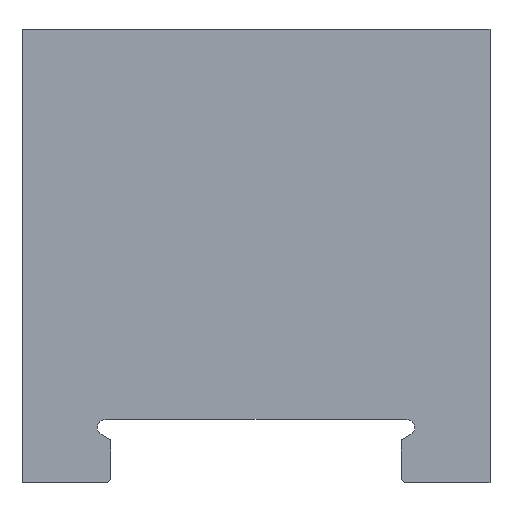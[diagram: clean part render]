
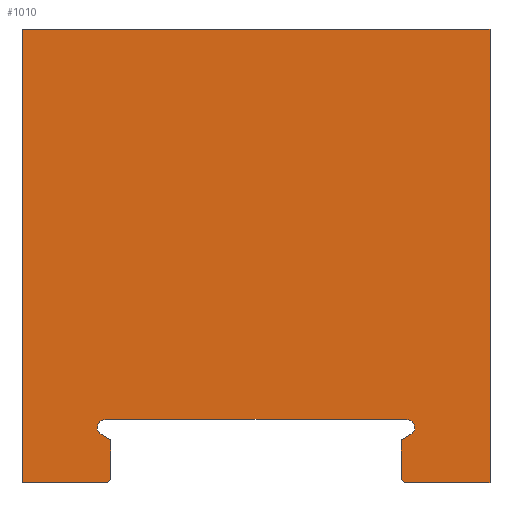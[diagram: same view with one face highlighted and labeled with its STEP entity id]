
A CAD part, front view. The second image highlights one B-rep face of the part: STEP entity #1010.
In plain terms, the highlighted planar face has unit normal (0, -1, 0).
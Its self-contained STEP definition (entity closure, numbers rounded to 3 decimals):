
#13 = DIRECTION ( 'NONE',  ( 0., 0., -1. ) ) ;
#24 = DIRECTION ( 'NONE',  ( 1., 0., 0. ) ) ;
#30 = CARTESIAN_POINT ( 'NONE',  ( -21.295, -38.5, 7.8 ) ) ;
#39 = CARTESIAN_POINT ( 'NONE',  ( -16., -38.5, 9. ) ) ;
#48 = CARTESIAN_POINT ( 'NONE',  ( 16., -38.5, 8.9 ) ) ;
#49 = CIRCLE ( 'NONE', #1008, 1.1 ) ;
#87 = CARTESIAN_POINT ( 'NONE',  ( 16., -38.5, 9. ) ) ;
#95 = CARTESIAN_POINT ( 'NONE',  ( -33., -38.5, 64. ) ) ;
#98 = VERTEX_POINT ( 'NONE', #763 ) ;
#109 = LINE ( 'NONE', #622, #506 ) ;
#129 = CARTESIAN_POINT ( 'NONE',  ( 21.845, -38.5, 6.847 ) ) ;
#131 = FACE_OUTER_BOUND ( 'NONE', #823, .T. ) ;
#144 = VERTEX_POINT ( 'NONE', #900 ) ;
#147 = LINE ( 'NONE', #547, #256 ) ;
#148 = DIRECTION ( 'NONE',  ( -1., 0., 0. ) ) ;
#156 = DIRECTION ( 'NONE',  ( 0.707, 0., 0.707 ) ) ;
#163 = ORIENTED_EDGE ( 'NONE', *, *, #1176, .F. ) ;
#172 = VECTOR ( 'NONE', #869, 1000. ) ;
#190 = AXIS2_PLACEMENT_3D ( 'NONE', #95, #990, #774 ) ;
#208 = EDGE_CURVE ( 'NONE', #1013, #906, #1047, .T. ) ;
#237 = VECTOR ( 'NONE', #156, 1000. ) ;
#251 = CARTESIAN_POINT ( 'NONE',  ( -20.5, -38.5, 6.071 ) ) ;
#255 = DIRECTION ( 'NONE',  ( 0., 0., 1. ) ) ;
#256 = VECTOR ( 'NONE', #845, 1000. ) ;
#267 = ORIENTED_EDGE ( 'NONE', *, *, #1252, .T. ) ;
#283 = EDGE_CURVE ( 'NONE', #304, #906, #387, .T. ) ;
#304 = VERTEX_POINT ( 'NONE', #694 ) ;
#314 = DIRECTION ( 'NONE',  ( 0., 0., 1. ) ) ;
#320 = LINE ( 'NONE', #905, #725 ) ;
#337 = PLANE ( 'NONE',  #190 ) ;
#341 = VERTEX_POINT ( 'NONE', #129 ) ;
#342 = CARTESIAN_POINT ( 'NONE',  ( 33., -38.5, 64. ) ) ;
#344 = VERTEX_POINT ( 'NONE', #251 ) ;
#360 = ORIENTED_EDGE ( 'NONE', *, *, #386, .F. ) ;
#362 = CARTESIAN_POINT ( 'NONE',  ( -33., -38.5, 0. ) ) ;
#365 = VECTOR ( 'NONE', #24, 1000. ) ;
#381 = VECTOR ( 'NONE', #979, 1000. ) ;
#386 = EDGE_CURVE ( 'NONE', #858, #488, #740, .T. ) ;
#387 = LINE ( 'NONE', #362, #1225 ) ;
#393 = ORIENTED_EDGE ( 'NONE', *, *, #660, .F. ) ;
#401 = CARTESIAN_POINT ( 'NONE',  ( 21.295, -38.5, 7.8 ) ) ;
#414 = CIRCLE ( 'NONE', #785, 1.1 ) ;
#434 = VERTEX_POINT ( 'NONE', #1411 ) ;
#442 = VECTOR ( 'NONE', #846, 1000. ) ;
#444 = CARTESIAN_POINT ( 'NONE',  ( 20.5, -38.5, 6.071 ) ) ;
#453 = LINE ( 'NONE', #580, #1223 ) ;
#477 = DIRECTION ( 'NONE',  ( 0.707, 0., -0.707 ) ) ;
#483 = CARTESIAN_POINT ( 'NONE',  ( -20.5, -38.5, 6.071 ) ) ;
#487 = EDGE_CURVE ( 'NONE', #144, #1049, #1154, .T. ) ;
#488 = VERTEX_POINT ( 'NONE', #48 ) ;
#490 = VECTOR ( 'NONE', #148, 1000. ) ;
#497 = VECTOR ( 'NONE', #1186, 1000. ) ;
#506 = VECTOR ( 'NONE', #728, 1000. ) ;
#547 = CARTESIAN_POINT ( 'NONE',  ( 20.5, -38.5, 6.071 ) ) ;
#555 = EDGE_CURVE ( 'NONE', #1112, #434, #1418, .T. ) ;
#580 = CARTESIAN_POINT ( 'NONE',  ( 20.5, -38.5, 0.5 ) ) ;
#593 = CARTESIAN_POINT ( 'NONE',  ( -33., -38.5, 64. ) ) ;
#596 = DIRECTION ( 'NONE',  ( 0.866, 0., 0.5 ) ) ;
#602 = LINE ( 'NONE', #1100, #442 ) ;
#622 = CARTESIAN_POINT ( 'NONE',  ( -33., -38.5, 0. ) ) ;
#625 = EDGE_CURVE ( 'NONE', #341, #858, #414, .T. ) ;
#634 = LINE ( 'NONE', #1185, #1275 ) ;
#648 = DIRECTION ( 'NONE',  ( 0., -1., 0. ) ) ;
#660 = EDGE_CURVE ( 'NONE', #1106, #1067, #147, .T. ) ;
#694 = CARTESIAN_POINT ( 'NONE',  ( 21., -38.5, 0. ) ) ;
#725 = VECTOR ( 'NONE', #596, 1000. ) ;
#728 = DIRECTION ( 'NONE',  ( 1., 0., 0. ) ) ;
#731 = ORIENTED_EDGE ( 'NONE', *, *, #758, .F. ) ;
#735 = EDGE_CURVE ( 'NONE', #98, #144, #109, .T. ) ;
#739 = CARTESIAN_POINT ( 'NONE',  ( -21.295, -38.5, 8.9 ) ) ;
#740 = LINE ( 'NONE', #804, #490 ) ;
#758 = EDGE_CURVE ( 'NONE', #842, #1112, #634, .T. ) ;
#763 = CARTESIAN_POINT ( 'NONE',  ( -33., -38.5, 0. ) ) ;
#774 = DIRECTION ( 'NONE',  ( 0., 0., 1. ) ) ;
#775 = ORIENTED_EDGE ( 'NONE', *, *, #625, .F. ) ;
#785 = AXIS2_PLACEMENT_3D ( 'NONE', #401, #648, #314 ) ;
#804 = CARTESIAN_POINT ( 'NONE',  ( 16., -38.5, 8.9 ) ) ;
#806 = CARTESIAN_POINT ( 'NONE',  ( 21.295, -38.5, 8.9 ) ) ;
#823 = EDGE_LOOP ( 'NONE', ( #393, #1143, #1340, #1165, #163, #267, #983, #945, #1331, #1267, #930, #1377, #731, #1249, #1325, #360, #775, #881 ) ) ;
#842 = VERTEX_POINT ( 'NONE', #39 ) ;
#845 = DIRECTION ( 'NONE',  ( 0., 0., 1. ) ) ;
#846 = DIRECTION ( 'NONE',  ( 0., 0., 1. ) ) ;
#858 = VERTEX_POINT ( 'NONE', #806 ) ;
#863 = EDGE_CURVE ( 'NONE', #1067, #341, #320, .T. ) ;
#869 = DIRECTION ( 'NONE',  ( -1., 0., 0. ) ) ;
#872 = CARTESIAN_POINT ( 'NONE',  ( 33., -38.5, 64. ) ) ;
#881 = ORIENTED_EDGE ( 'NONE', *, *, #863, .F. ) ;
#897 = EDGE_CURVE ( 'NONE', #981, #344, #1339, .T. ) ;
#900 = CARTESIAN_POINT ( 'NONE',  ( -21., -38.5, 0. ) ) ;
#903 = EDGE_CURVE ( 'NONE', #967, #842, #923, .T. ) ;
#905 = CARTESIAN_POINT ( 'NONE',  ( 21.845, -38.5, 6.847 ) ) ;
#906 = VERTEX_POINT ( 'NONE', #1431 ) ;
#923 = LINE ( 'NONE', #1305, #172 ) ;
#930 = ORIENTED_EDGE ( 'NONE', *, *, #1291, .F. ) ;
#944 = VECTOR ( 'NONE', #1444, 1000. ) ;
#945 = ORIENTED_EDGE ( 'NONE', *, *, #487, .T. ) ;
#967 = VERTEX_POINT ( 'NONE', #87 ) ;
#979 = DIRECTION ( 'NONE',  ( -1., 0., 0. ) ) ;
#981 = VERTEX_POINT ( 'NONE', #1075 ) ;
#983 = ORIENTED_EDGE ( 'NONE', *, *, #735, .T. ) ;
#990 = DIRECTION ( 'NONE',  ( 0., 1., 0. ) ) ;
#1001 = EDGE_CURVE ( 'NONE', #488, #967, #602, .T. ) ;
#1004 = LINE ( 'NONE', #1401, #497 ) ;
#1008 = AXIS2_PLACEMENT_3D ( 'NONE', #30, #1260, #255 ) ;
#1010 = ADVANCED_FACE ( 'NONE', ( #131 ), #337, .F. ) ;
#1013 = VERTEX_POINT ( 'NONE', #342 ) ;
#1015 = CARTESIAN_POINT ( 'NONE',  ( -33., -38.5, 64. ) ) ;
#1030 = DIRECTION ( 'NONE',  ( 0., 0., -1. ) ) ;
#1047 = LINE ( 'NONE', #872, #1322 ) ;
#1049 = VERTEX_POINT ( 'NONE', #1447 ) ;
#1067 = VERTEX_POINT ( 'NONE', #444 ) ;
#1075 = CARTESIAN_POINT ( 'NONE',  ( -21.845, -38.5, 6.847 ) ) ;
#1100 = CARTESIAN_POINT ( 'NONE',  ( 16., -38.5, 8.9 ) ) ;
#1106 = VERTEX_POINT ( 'NONE', #1121 ) ;
#1107 = CARTESIAN_POINT ( 'NONE',  ( -16., -38.5, 8.9 ) ) ;
#1112 = VERTEX_POINT ( 'NONE', #1107 ) ;
#1121 = CARTESIAN_POINT ( 'NONE',  ( 20.5, -38.5, 0.5 ) ) ;
#1122 = LINE ( 'NONE', #1015, #365 ) ;
#1143 = ORIENTED_EDGE ( 'NONE', *, *, #1153, .T. ) ;
#1153 = EDGE_CURVE ( 'NONE', #1106, #304, #453, .T. ) ;
#1154 = LINE ( 'NONE', #1402, #237 ) ;
#1165 = ORIENTED_EDGE ( 'NONE', *, *, #208, .F. ) ;
#1167 = CARTESIAN_POINT ( 'NONE',  ( -33., -38.5, 64. ) ) ;
#1176 = EDGE_CURVE ( 'NONE', #1350, #1013, #1122, .T. ) ;
#1185 = CARTESIAN_POINT ( 'NONE',  ( -16., -38.5, 8.9 ) ) ;
#1186 = DIRECTION ( 'NONE',  ( 0., 0., -1. ) ) ;
#1223 = VECTOR ( 'NONE', #477, 1000. ) ;
#1225 = VECTOR ( 'NONE', #1382, 1000. ) ;
#1249 = ORIENTED_EDGE ( 'NONE', *, *, #903, .F. ) ;
#1252 = EDGE_CURVE ( 'NONE', #1350, #98, #1423, .T. ) ;
#1260 = DIRECTION ( 'NONE',  ( 0., -1., 0. ) ) ;
#1267 = ORIENTED_EDGE ( 'NONE', *, *, #897, .F. ) ;
#1275 = VECTOR ( 'NONE', #1420, 1000. ) ;
#1291 = EDGE_CURVE ( 'NONE', #434, #981, #49, .T. ) ;
#1305 = CARTESIAN_POINT ( 'NONE',  ( 16., -38.5, 9. ) ) ;
#1322 = VECTOR ( 'NONE', #13, 1000. ) ;
#1325 = ORIENTED_EDGE ( 'NONE', *, *, #1001, .F. ) ;
#1331 = ORIENTED_EDGE ( 'NONE', *, *, #1415, .F. ) ;
#1339 = LINE ( 'NONE', #483, #944 ) ;
#1340 = ORIENTED_EDGE ( 'NONE', *, *, #283, .T. ) ;
#1350 = VERTEX_POINT ( 'NONE', #1167 ) ;
#1377 = ORIENTED_EDGE ( 'NONE', *, *, #555, .F. ) ;
#1382 = DIRECTION ( 'NONE',  ( 1., 0., 0. ) ) ;
#1386 = VECTOR ( 'NONE', #1030, 1000. ) ;
#1401 = CARTESIAN_POINT ( 'NONE',  ( -20.5, -38.5, 0. ) ) ;
#1402 = CARTESIAN_POINT ( 'NONE',  ( -21., -38.5, 0. ) ) ;
#1411 = CARTESIAN_POINT ( 'NONE',  ( -21.295, -38.5, 8.9 ) ) ;
#1415 = EDGE_CURVE ( 'NONE', #344, #1049, #1004, .T. ) ;
#1418 = LINE ( 'NONE', #739, #381 ) ;
#1420 = DIRECTION ( 'NONE',  ( 0., 0., -1. ) ) ;
#1423 = LINE ( 'NONE', #593, #1386 ) ;
#1431 = CARTESIAN_POINT ( 'NONE',  ( 33., -38.5, 0. ) ) ;
#1444 = DIRECTION ( 'NONE',  ( 0.866, 0., -0.5 ) ) ;
#1447 = CARTESIAN_POINT ( 'NONE',  ( -20.5, -38.5, 0.5 ) ) ;
